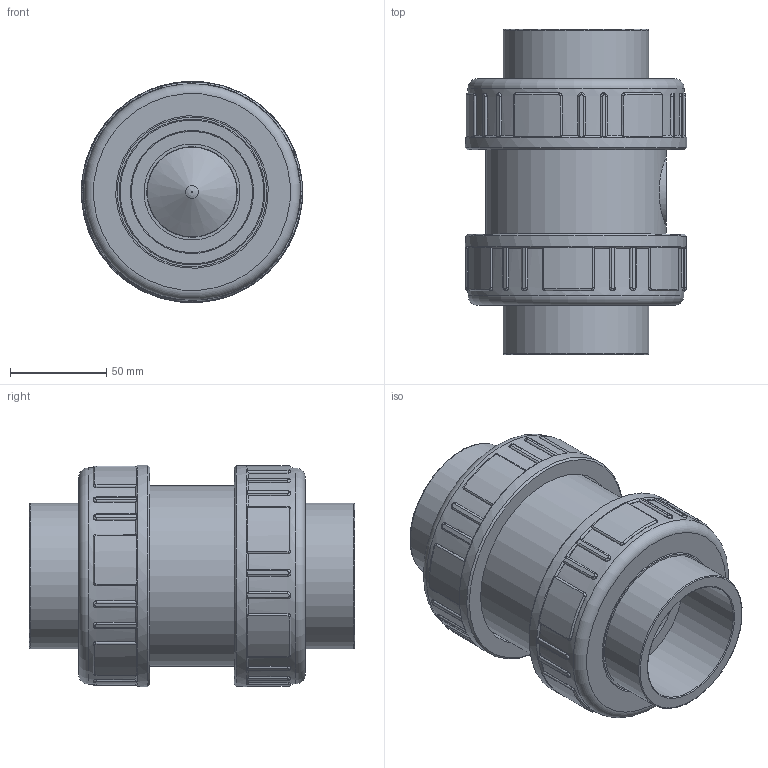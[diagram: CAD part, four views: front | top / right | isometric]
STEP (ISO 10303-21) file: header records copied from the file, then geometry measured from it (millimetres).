
FILE_DESCRIPTION(/* description */ (''),/* implementation_level */ '2;1');
FILE_NAME(/* name */ 'C:\Users\POLYPIPE\Desktop\DATASET INVENTOR\LIBRERIA EFFAST\3D_VALVOLE\3D_VALVOLE NON RITORNO\3D_CV\3D_CDRCVD\3D_CDRCVD0630.stp',/* time_stamp */ '2018-01-24T16:11:29+01:00',/* author */ ('POLYPIPE'),/* organization */ (''),/* preprocessor_version */ 'ST-DEVELOPER v16.1',/* originating_system */ 'Autodesk Inventor 2016',/* authorisation */ '');
FILE_SCHEMA (('CONFIG_CONTROL_DESIGN'));
Products named in the file (1): 3D_CDRCVD0630
Bounding box: 114.98 x 169 x 114.97 mm (x, y, z)
Volume: 702331.7 mm3; surface area: 198757.3 mm2
Topology: 1 solids, 3 shells, 557 faces, 1483 edges, 941 vertices
Faces by surface type: plane 198, cylinder 150, bspline 147, torus 52, cone 10
Full cylindrical faces by diameter (mm): 46.7 x1, 47.2 x1, 48.7 x1, 50 x3, 54.2 x1, 55 x1, 57.8 x1, 61 x1, 63 x2, 66.3 x1, 66.8 x1, 71.7 x1, 75.8 x2, 77.8 x2, 79.3 x2, 80.3 x1, 80.6 x1, 88.9 x2, 94 x1, 96.5 x2, 112.4 x2, 115 x2
Entity records: 62556 total; most frequent: CARTESIAN_POINT 49270, ORIENTED_EDGE 2782, DIRECTION 2337, EDGE_CURVE 1391, VERTEX_POINT 920, AXIS2_PLACEMENT_3D 897, EDGE_LOOP 663, STYLED_ITEM 558
